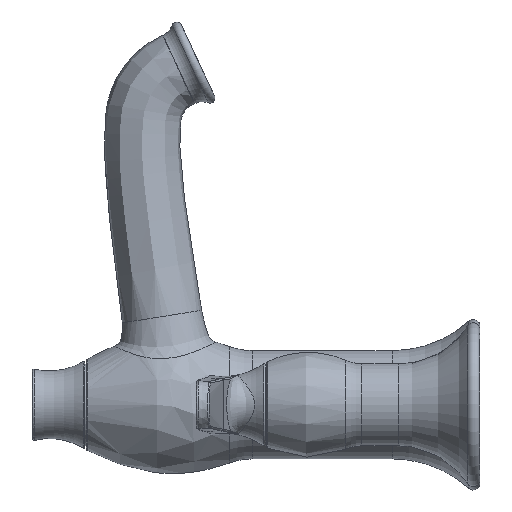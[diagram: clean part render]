
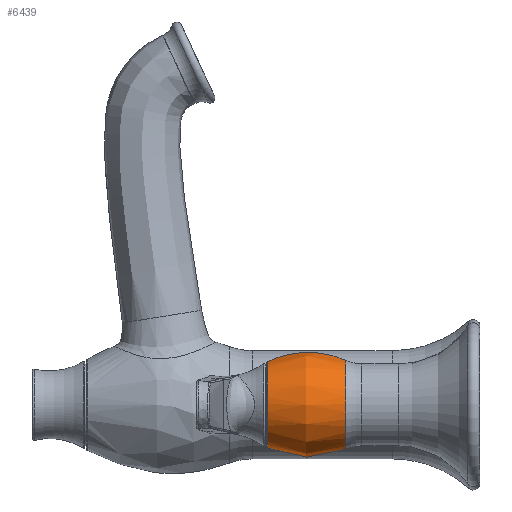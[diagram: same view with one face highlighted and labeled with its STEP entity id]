
A CAD part, left-side view. The second image highlights one B-rep face of the part: STEP entity #6439.
In plain terms, the highlighted free-form (B-spline) face has degree [2, 2] with [3, 9] control points.
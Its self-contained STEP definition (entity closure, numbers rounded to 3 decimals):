
#393=CIRCLE('',#6828,13.139);
#394=CIRCLE('',#6829,13.139);
#395=CIRCLE('',#6830,13.139);
#396=CIRCLE('',#6831,13.139);
#406=CIRCLE('',#6844,13.55);
#407=CIRCLE('',#6845,28.);
#408=CIRCLE('',#6846,13.55);
#932=(
BOUNDED_SURFACE()
B_SPLINE_SURFACE(2,2,((#12605,#12606,#12607,#12608,#12609,#12610,#12611,
#12612,#12613),(#12614,#12615,#12616,#12617,#12618,#12619,#12620,#12621,
#12622),(#12623,#12624,#12625,#12626,#12627,#12628,#12629,#12630,#12631)),
 .UNSPECIFIED.,.F.,.T.,.F.)
B_SPLINE_SURFACE_WITH_KNOTS((3,3),(3,2,2,2,3),(-0.456,0.421),
(-3.142,-1.571,0.,1.571,3.142),
 .UNSPECIFIED.)
GEOMETRIC_REPRESENTATION_ITEM()
RATIONAL_B_SPLINE_SURFACE(((1.,0.707,1.,0.707,1.,
0.707,1.,0.707,1.),(0.905,0.64,
0.905,0.64,0.905,0.64,
0.905,0.64,0.905),(1.,0.707,
1.,0.707,1.,0.707,1.,0.707,1.)))
REPRESENTATION_ITEM('')
SURFACE()
);
#1111=FACE_OUTER_BOUND('',#1457,.T.);
#1457=EDGE_LOOP('',(#5021,#5022,#5023,#5024,#5025,#5026,#5027,#5028));
#2684=VERTEX_POINT('',#12576);
#2685=VERTEX_POINT('',#12578);
#2686=VERTEX_POINT('',#12580);
#2687=VERTEX_POINT('',#12582);
#2693=VERTEX_POINT('',#12632);
#2694=VERTEX_POINT('',#12633);
#3539=EDGE_CURVE('',#2684,#2685,#393,.T.);
#3540=EDGE_CURVE('',#2685,#2686,#394,.T.);
#3541=EDGE_CURVE('',#2686,#2687,#395,.T.);
#3542=EDGE_CURVE('',#2687,#2684,#396,.T.);
#3555=EDGE_CURVE('',#2693,#2694,#406,.T.);
#3556=EDGE_CURVE('',#2694,#2686,#407,.T.);
#3557=EDGE_CURVE('',#2694,#2693,#408,.T.);
#5021=ORIENTED_EDGE('',*,*,#3555,.T.);
#5022=ORIENTED_EDGE('',*,*,#3556,.T.);
#5023=ORIENTED_EDGE('',*,*,#3540,.F.);
#5024=ORIENTED_EDGE('',*,*,#3539,.F.);
#5025=ORIENTED_EDGE('',*,*,#3542,.F.);
#5026=ORIENTED_EDGE('',*,*,#3541,.F.);
#5027=ORIENTED_EDGE('',*,*,#3556,.F.);
#5028=ORIENTED_EDGE('',*,*,#3557,.T.);
#6439=ADVANCED_FACE('',(#1111),#932,.F.);
#6828=AXIS2_PLACEMENT_3D('',#12579,#7683,#7684);
#6829=AXIS2_PLACEMENT_3D('',#12581,#7685,#7686);
#6830=AXIS2_PLACEMENT_3D('',#12583,#7687,#7688);
#6831=AXIS2_PLACEMENT_3D('',#12584,#7689,#7690);
#6844=AXIS2_PLACEMENT_3D('',#12634,#7718,#7719);
#6845=AXIS2_PLACEMENT_3D('',#12635,#7720,#7721);
#6846=AXIS2_PLACEMENT_3D('',#12636,#7722,#7723);
#7683=DIRECTION('center_axis',(0.,1.,0.));
#7684=DIRECTION('ref_axis',(0.193,0.,0.981));
#7685=DIRECTION('center_axis',(0.,1.,0.));
#7686=DIRECTION('ref_axis',(-0.193,0.,-0.981));
#7687=DIRECTION('center_axis',(0.,1.,0.));
#7688=DIRECTION('ref_axis',(-0.193,0.,-0.981));
#7689=DIRECTION('center_axis',(0.,1.,0.));
#7690=DIRECTION('ref_axis',(0.193,0.,0.981));
#7718=DIRECTION('center_axis',(0.,1.,0.));
#7719=DIRECTION('ref_axis',(-0.193,0.,-0.981));
#7720=DIRECTION('center_axis',(-1.,0.,0.));
#7721=DIRECTION('ref_axis',(0.,0.,1.));
#7722=DIRECTION('center_axis',(0.,1.,0.));
#7723=DIRECTION('ref_axis',(-0.193,0.,-0.981));
#12576=CARTESIAN_POINT('',(-102.,64.72,-13.139));
#12578=CARTESIAN_POINT('',(-104.532,64.72,-12.893));
#12579=CARTESIAN_POINT('Origin',(-102.,64.72,0.));
#12580=CARTESIAN_POINT('',(-102.,64.72,13.139));
#12581=CARTESIAN_POINT('Origin',(-102.,64.72,0.));
#12582=CARTESIAN_POINT('',(-99.468,64.72,12.893));
#12583=CARTESIAN_POINT('Origin',(-102.,64.72,0.));
#12584=CARTESIAN_POINT('Origin',(-102.,64.72,0.));
#12605=CARTESIAN_POINT('Ctrl Pts',(-102.,64.72,13.139));
#12606=CARTESIAN_POINT('Ctrl Pts',(-115.139,64.72,13.139));
#12607=CARTESIAN_POINT('Ctrl Pts',(-115.139,64.72,0.));
#12608=CARTESIAN_POINT('Ctrl Pts',(-115.139,64.72,-13.139));
#12609=CARTESIAN_POINT('Ctrl Pts',(-102.,64.72,-13.139));
#12610=CARTESIAN_POINT('Ctrl Pts',(-88.861,64.72,-13.139));
#12611=CARTESIAN_POINT('Ctrl Pts',(-88.861,64.72,0.));
#12612=CARTESIAN_POINT('Ctrl Pts',(-88.861,64.72,13.139));
#12613=CARTESIAN_POINT('Ctrl Pts',(-102.,64.72,13.139));
#12614=CARTESIAN_POINT('Ctrl Pts',(-102.,52.925,18.924));
#12615=CARTESIAN_POINT('Ctrl Pts',(-120.924,52.925,18.924));
#12616=CARTESIAN_POINT('Ctrl Pts',(-120.924,52.925,0.));
#12617=CARTESIAN_POINT('Ctrl Pts',(-120.924,52.925,-18.924));
#12618=CARTESIAN_POINT('Ctrl Pts',(-102.,52.925,-18.924));
#12619=CARTESIAN_POINT('Ctrl Pts',(-83.076,52.925,-18.924));
#12620=CARTESIAN_POINT('Ctrl Pts',(-83.076,52.925,0.));
#12621=CARTESIAN_POINT('Ctrl Pts',(-83.076,52.925,18.924));
#12622=CARTESIAN_POINT('Ctrl Pts',(-102.,52.925,18.924));
#12623=CARTESIAN_POINT('Ctrl Pts',(-102.,40.936,13.55));
#12624=CARTESIAN_POINT('Ctrl Pts',(-115.55,40.936,13.55));
#12625=CARTESIAN_POINT('Ctrl Pts',(-115.55,40.936,0.));
#12626=CARTESIAN_POINT('Ctrl Pts',(-115.55,40.936,-13.55));
#12627=CARTESIAN_POINT('Ctrl Pts',(-102.,40.936,-13.55));
#12628=CARTESIAN_POINT('Ctrl Pts',(-88.45,40.936,-13.55));
#12629=CARTESIAN_POINT('Ctrl Pts',(-88.45,40.936,0.));
#12630=CARTESIAN_POINT('Ctrl Pts',(-88.45,40.936,13.55));
#12631=CARTESIAN_POINT('Ctrl Pts',(-102.,40.936,13.55));
#12632=CARTESIAN_POINT('',(-104.611,40.936,-13.296));
#12633=CARTESIAN_POINT('',(-102.,40.936,13.55));
#12634=CARTESIAN_POINT('Origin',(-102.,40.936,0.));
#12635=CARTESIAN_POINT('Origin',(-102.,52.39,-12.));
#12636=CARTESIAN_POINT('Origin',(-102.,40.936,0.));
